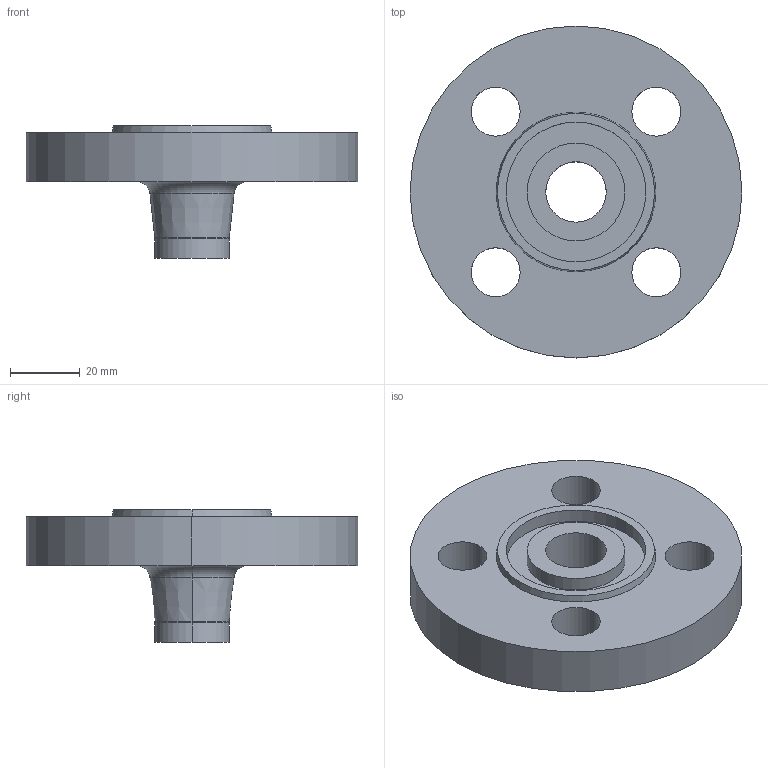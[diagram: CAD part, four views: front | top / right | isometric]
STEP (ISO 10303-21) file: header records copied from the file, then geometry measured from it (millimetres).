
FILE_DESCRIPTION (( 'STEP AP214' ), '1' );
FILE_NAME ('PN40 DN15 Type 11 - Type D Face.STEP', '2018-12-29T15:03:49', ( '' ), ( '' ), 'SwSTEP 2.0', 'SolidWorks 2019', '' );
FILE_SCHEMA (( 'AUTOMOTIVE_DESIGN' ));
Length unit declared in the file: millimetre
Products named in the file (1): PN40 DN15 Type 11 - Type D Face
Bounding box: 95 x 95 x 38 mm (x, y, z)
Volume: 91415.7 mm3; surface area: 23618.8 mm2
Topology: 1 solids, 1 shells, 32 faces, 72 edges, 46 vertices
Faces by surface type: cylinder 18, plane 6, torus 4, cone 4
Entity records: 972 total; most frequent: DIRECTION 188, CARTESIAN_POINT 151, ORIENTED_EDGE 144, AXIS2_PLACEMENT_3D 83, EDGE_CURVE 72, CIRCLE 50, EDGE_LOOP 46, VERTEX_POINT 46
